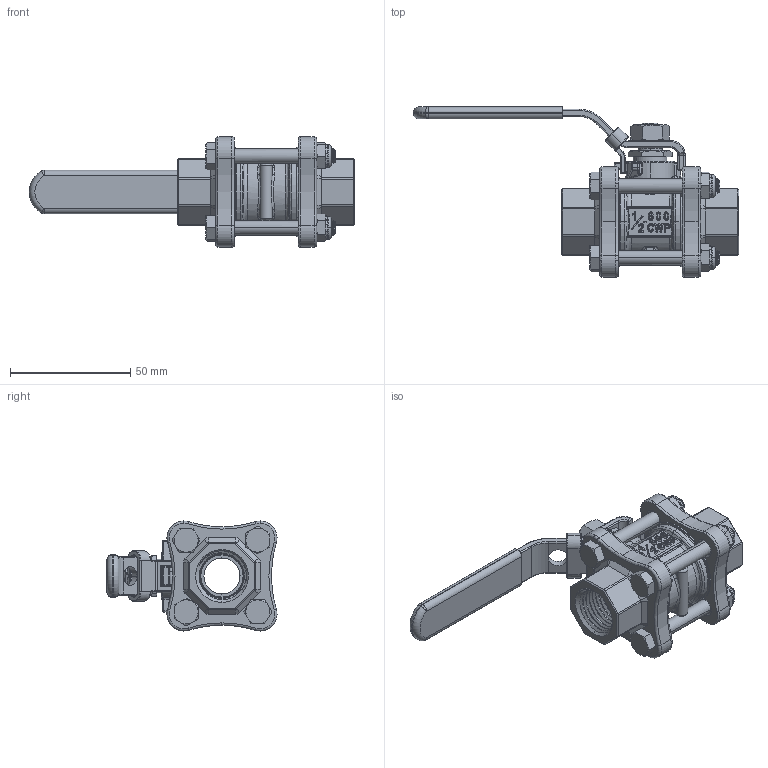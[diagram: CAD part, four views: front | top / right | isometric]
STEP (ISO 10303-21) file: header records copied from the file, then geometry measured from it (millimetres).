
FILE_DESCRIPTION (( 'STEP AP203' ), '1' );
FILE_NAME ('T-15.STEP', '2025-02-27T05:12:56', ( 'user' ), ( '' ), 'SwSTEP 2.0', 'SolidWorks 2012', '' );
FILE_SCHEMA (( 'CONFIG_CONTROL_DESIGN' ));
Length unit declared in the file: millimetre
Products named in the file (17): T-15; 14-HANDLE COVER; 掛鎖; 15-HANDLE NUT; 13-HANDLE; 12-CAP BOLT; 11-CAP NUT; 10-GLAND; 9-BODY SEAL; 8-GLAND PACKING; 7-0-RING; 6-THRUST WASHER; 5-SEAT; 4-STEM; 3-BALL; 2-CAP; 1-BODY
Assembly tree (26 placements, depth 2):
  T-15
    1-BODY
    2-CAP  x2
    3-BALL
    4-STEM
    5-SEAT  x2
    6-THRUST WASHER
    7-0-RING  x2
    8-GLAND PACKING
    9-BODY SEAL  x2
    10-GLAND
    11-CAP NUT  x4
    12-CAP BOLT  x4
    13-HANDLE
    15-HANDLE NUT
    掛鎖
    14-HANDLE COVER
Bounding box: 135.18 x 70.69 x 45.78 mm (x, y, z)
Volume: 73365.6 mm3; surface area: 52675.9 mm2
Topology: 26 solids, 26 shells, 1659 faces, 4118 edges, 2499 vertices
Faces by surface type: cylinder 502, plane 360, bspline 335, cone 231, torus 179, sphere 52
Entity records: 84675 total; most frequent: CARTESIAN_POINT 57439, ORIENTED_EDGE 5760, DIRECTION 4622, EDGE_CURVE 2880, AXIS2_PLACEMENT_3D 1903, VERTEX_POINT 1755, EDGE_LOOP 1261, ADVANCED_FACE 1190
